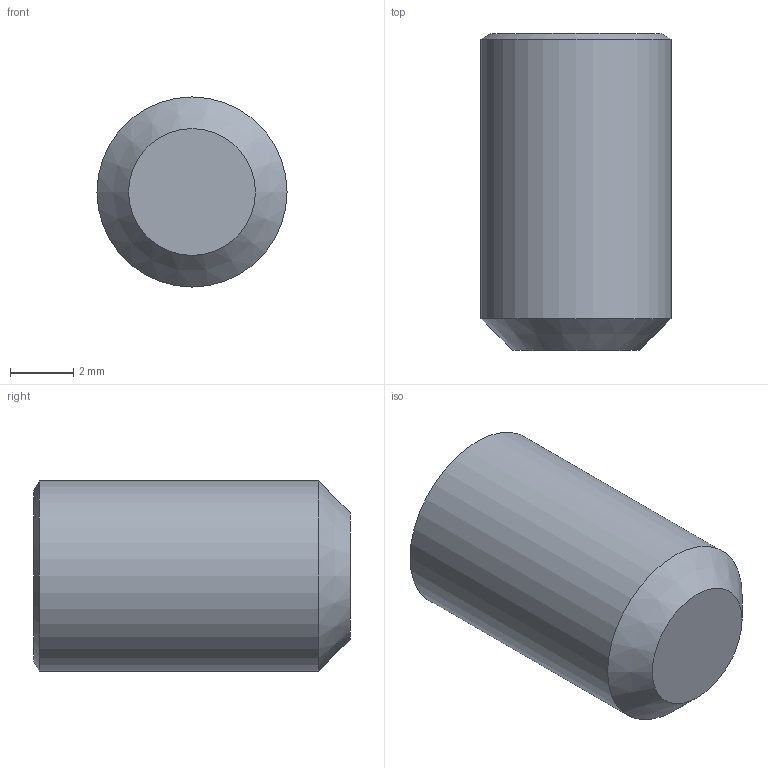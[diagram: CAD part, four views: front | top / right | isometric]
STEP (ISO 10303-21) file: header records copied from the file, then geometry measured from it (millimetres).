
FILE_DESCRIPTION(/* description */ (''),/* implementation_level */ '2;1');
FILE_NAME(/* name */ 'C:\Users\D\Documents\Inventor\各種小物\JIS\止めねじ\平先\M6\M6x10.stp',/* time_stamp */ '2022-06-23T14:26:12+09:00',/* author */ ('D'),/* organization */ (''),/* preprocessor_version */ 'ST-DEVELOPER v18',/* originating_system */ 'Autodesk Inventor 2020',/* authorisation */ '');
FILE_SCHEMA (('AUTOMOTIVE_DESIGN { 1 0 10303 214 3 1 1 }'));
Length unit declared in the file: millimetre
Products named in the file (1): M1.6x2
Bounding box: 6 x 10 x 6 mm (x, y, z)
Volume: 243.5 mm3; surface area: 268.7 mm2
Topology: 1 solids, 1 shells, 12 faces, 28 edges, 18 vertices
Faces by surface type: plane 8, cone 3, cylinder 1
Full cylindrical faces by diameter (mm): 6 x1
Entity records: 369 total; most frequent: CARTESIAN_POINT 72, ORIENTED_EDGE 54, DIRECTION 50, EDGE_CURVE 27, VERTEX_POINT 18, AXIS2_PLACEMENT_3D 17, LINE 16, VECTOR 16
